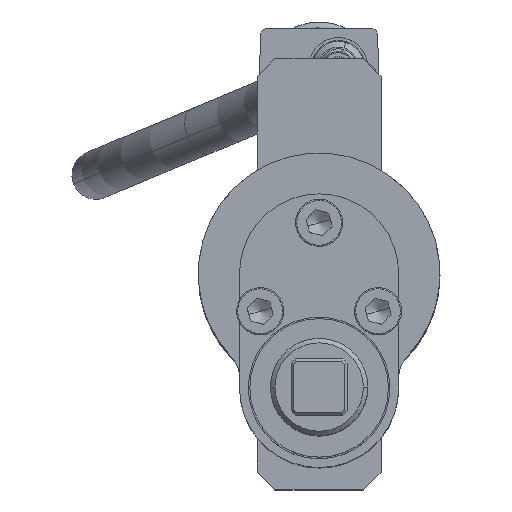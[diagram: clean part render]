
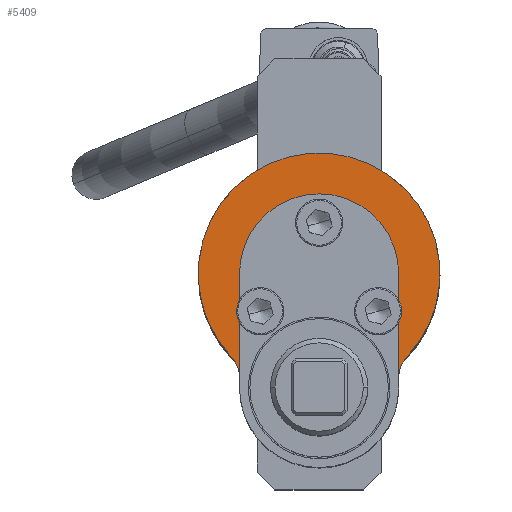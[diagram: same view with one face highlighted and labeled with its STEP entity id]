
A CAD part, top view. The second image highlights one B-rep face of the part: STEP entity #5409.
In plain terms, the highlighted planar face has unit normal (0, 0, 1).
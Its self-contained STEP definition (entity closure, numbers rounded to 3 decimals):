
#5248=AXIS2_PLACEMENT_3D('Circle Axis2P3D',#5246,#5247,$) ;
#5343=AXIS2_PLACEMENT_3D('Circle Axis2P3D',#5341,#5342,$) ;
#5367=AXIS2_PLACEMENT_3D('Circle Axis2P3D',#5365,#5366,$) ;
#5380=AXIS2_PLACEMENT_3D('Plane Axis2P3D',#5377,#5378,#5379) ;
#5391=AXIS2_PLACEMENT_3D('Circle Axis2P3D',#5389,#5390,$) ;
#5236=CARTESIAN_POINT('Vertex',(29.745,-28.218,579.6)) ;
#5243=CARTESIAN_POINT('Vertex',(-29.745,-28.218,579.6)) ;
#5246=CARTESIAN_POINT('Axis2P3D Location',(0.,0.,579.6)) ;
#5338=CARTESIAN_POINT('Vertex',(27.,-35.1,579.6)) ;
#5341=CARTESIAN_POINT('Axis2P3D Location',(37.,-35.1,579.6)) ;
#5362=CARTESIAN_POINT('Vertex',(-27.,-35.1,579.6)) ;
#5365=CARTESIAN_POINT('Axis2P3D Location',(-37.,-35.1,579.6)) ;
#5377=CARTESIAN_POINT('Axis2P3D Location',(0.,0.,579.6)) ;
#5382=CARTESIAN_POINT('Line Origine',(-27.,-17.55,579.6)) ;
#5386=CARTESIAN_POINT('Vertex',(-27.,0.,579.6)) ;
#5389=CARTESIAN_POINT('Axis2P3D Location',(0.,0.,579.6)) ;
#5393=CARTESIAN_POINT('Vertex',(27.,0.,579.6)) ;
#5396=CARTESIAN_POINT('Line Origine',(27.,-17.55,579.6)) ;
#5247=DIRECTION('Axis2P3D Direction',(0.,0.,1.)) ;
#5342=DIRECTION('Axis2P3D Direction',(0.,0.,1.)) ;
#5366=DIRECTION('Axis2P3D Direction',(0.,0.,1.)) ;
#5378=DIRECTION('Axis2P3D Direction',(0.,0.,1.)) ;
#5379=DIRECTION('Axis2P3D XDirection',(1.,0.,0.)) ;
#5383=DIRECTION('Vector Direction',(0.,-1.,0.)) ;
#5390=DIRECTION('Axis2P3D Direction',(0.,0.,1.)) ;
#5397=DIRECTION('Vector Direction',(0.,-1.,0.)) ;
#5384=VECTOR('Line Direction',#5383,1.) ;
#5398=VECTOR('Line Direction',#5397,1.) ;
#5402=ORIENTED_EDGE('',*,*,#5345,.T.) ;
#5403=ORIENTED_EDGE('',*,*,#5250,.T.) ;
#5404=ORIENTED_EDGE('',*,*,#5369,.T.) ;
#5405=ORIENTED_EDGE('',*,*,#5388,.F.) ;
#5406=ORIENTED_EDGE('',*,*,#5395,.F.) ;
#5407=ORIENTED_EDGE('',*,*,#5400,.F.) ;
#5409=ADVANCED_FACE('AO-350.1\\AO350.1\\Hauptk\X2\00F6\X0\rper',(#5408),#5381,.T.) ;
#5249=CIRCLE('generated circle',#5248,41.) ;
#5344=CIRCLE('generated circle',#5343,10.) ;
#5368=CIRCLE('generated circle',#5367,10.) ;
#5392=CIRCLE('generated circle',#5391,27.) ;
#5250=EDGE_CURVE('',#5237,#5244,#5249,.T.) ;
#5345=EDGE_CURVE('',#5339,#5237,#5344,.F.) ;
#5369=EDGE_CURVE('',#5244,#5363,#5368,.F.) ;
#5388=EDGE_CURVE('',#5387,#5363,#5385,.T.) ;
#5395=EDGE_CURVE('',#5394,#5387,#5392,.T.) ;
#5400=EDGE_CURVE('',#5339,#5394,#5399,.F.) ;
#5401=EDGE_LOOP('',(#5402,#5403,#5404,#5405,#5406,#5407)) ;
#5408=FACE_OUTER_BOUND('',#5401,.T.) ;
#5385=LINE('Line',#5382,#5384) ;
#5399=LINE('Line',#5396,#5398) ;
#5381=PLANE('Plane',#5380) ;
#5237=VERTEX_POINT('',#5236) ;
#5244=VERTEX_POINT('',#5243) ;
#5339=VERTEX_POINT('',#5338) ;
#5363=VERTEX_POINT('',#5362) ;
#5387=VERTEX_POINT('',#5386) ;
#5394=VERTEX_POINT('',#5393) ;
